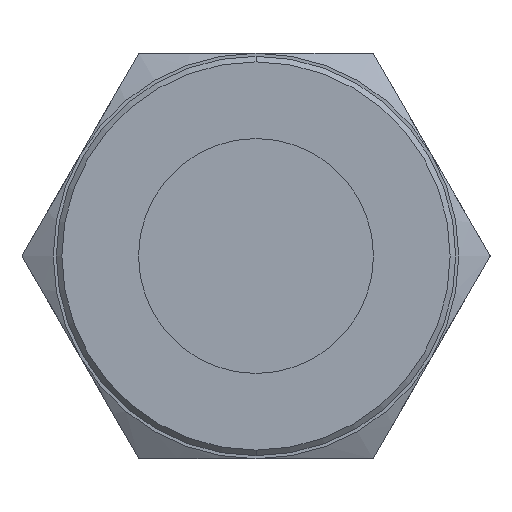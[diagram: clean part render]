
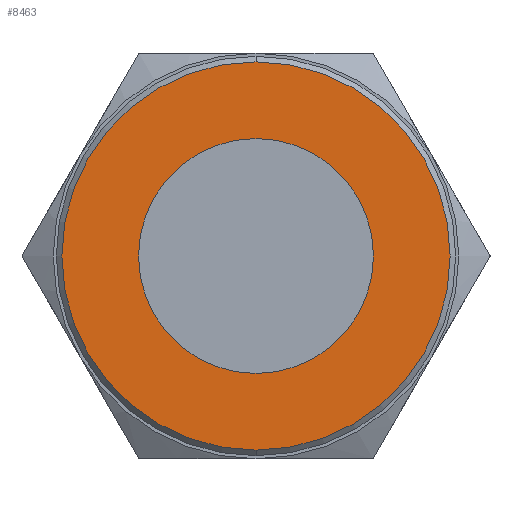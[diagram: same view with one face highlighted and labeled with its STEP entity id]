
A CAD part, left-side view. The second image highlights one B-rep face of the part: STEP entity #8463.
In plain terms, the highlighted planar face has unit normal (-1, 0, 0).
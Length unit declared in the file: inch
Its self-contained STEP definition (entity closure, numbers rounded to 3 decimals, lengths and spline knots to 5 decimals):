
#663 = VERTEX_POINT ( 'NONE', #8227 ) ;
#825 = CARTESIAN_POINT ( 'NONE',  ( -0.392, 0., 0. ) ) ;
#835 = CARTESIAN_POINT ( 'NONE',  ( -0.392, 0., 0. ) ) ;
#958 = VERTEX_POINT ( 'NONE', #9212 ) ;
#1604 = ORIENTED_EDGE ( 'NONE', *, *, #8755, .T. ) ;
#1748 = VERTEX_POINT ( 'NONE', #9545 ) ;
#2026 = CIRCLE ( 'NONE', #10053, 0.2535 ) ;
#2138 = DIRECTION ( 'NONE',  ( 1., 0., 0. ) ) ;
#2234 = EDGE_CURVE ( 'NONE', #1748, #10914, #2026, .T. ) ;
#2689 = CIRCLE ( 'NONE', #12543, 0.2535 ) ;
#2708 = CIRCLE ( 'NONE', #10716, 0.419 ) ;
#2785 = DIRECTION ( 'NONE',  ( 0., 0., -1. ) ) ;
#3270 = FACE_BOUND ( 'NONE', #11406, .T. ) ;
#3342 = CARTESIAN_POINT ( 'NONE',  ( -0.392, -0.50518, 0. ) ) ;
#3525 = DIRECTION ( 'NONE',  ( 1., 0., 0. ) ) ;
#3861 = DIRECTION ( 'NONE',  ( 1., 0., 0. ) ) ;
#4536 = AXIS2_PLACEMENT_3D ( 'NONE', #3342, #2138, #7651 ) ;
#4802 = CARTESIAN_POINT ( 'NONE',  ( -0.392, 0., 0. ) ) ;
#5091 = ORIENTED_EDGE ( 'NONE', *, *, #6900, .T. ) ;
#5496 = DIRECTION ( 'NONE',  ( -1., 0., 0. ) ) ;
#6254 = EDGE_LOOP ( 'NONE', ( #1604, #8619 ) ) ;
#6900 = EDGE_CURVE ( 'NONE', #10914, #1748, #2689, .T. ) ;
#7651 = DIRECTION ( 'NONE',  ( 0., 0., -1. ) ) ;
#7721 = DIRECTION ( 'NONE',  ( 0., 0., -1. ) ) ;
#8227 = CARTESIAN_POINT ( 'NONE',  ( -0.392, 0., 0.419 ) ) ;
#8374 = CARTESIAN_POINT ( 'NONE',  ( -0.392, 0., 0.2535 ) ) ;
#8463 = ADVANCED_FACE ( 'NONE', ( #13102, #3270 ), #13042, .F. ) ;
#8619 = ORIENTED_EDGE ( 'NONE', *, *, #10032, .T. ) ;
#8650 = DIRECTION ( 'NONE',  ( 0., 0., -1. ) ) ;
#8755 = EDGE_CURVE ( 'NONE', #958, #663, #2708, .T. ) ;
#8984 = DIRECTION ( 'NONE',  ( 0., 0., -1. ) ) ;
#9133 = CARTESIAN_POINT ( 'NONE',  ( -0.392, 0., 0. ) ) ;
#9212 = CARTESIAN_POINT ( 'NONE',  ( -0.392, 0., -0.419 ) ) ;
#9545 = CARTESIAN_POINT ( 'NONE',  ( -0.392, 0., -0.2535 ) ) ;
#9596 = DIRECTION ( 'NONE',  ( -1., 0., 0. ) ) ;
#10032 = EDGE_CURVE ( 'NONE', #663, #958, #10952, .T. ) ;
#10053 = AXIS2_PLACEMENT_3D ( 'NONE', #4802, #3861, #2785 ) ;
#10716 = AXIS2_PLACEMENT_3D ( 'NONE', #825, #5496, #8650 ) ;
#10914 = VERTEX_POINT ( 'NONE', #8374 ) ;
#10952 = CIRCLE ( 'NONE', #12345, 0.419 ) ;
#11406 = EDGE_LOOP ( 'NONE', ( #12839, #5091 ) ) ;
#12345 = AXIS2_PLACEMENT_3D ( 'NONE', #835, #9596, #7721 ) ;
#12543 = AXIS2_PLACEMENT_3D ( 'NONE', #9133, #3525, #8984 ) ;
#12839 = ORIENTED_EDGE ( 'NONE', *, *, #2234, .T. ) ;
#13042 = PLANE ( 'NONE',  #4536 ) ;
#13102 = FACE_OUTER_BOUND ( 'NONE', #6254, .T. ) ;
